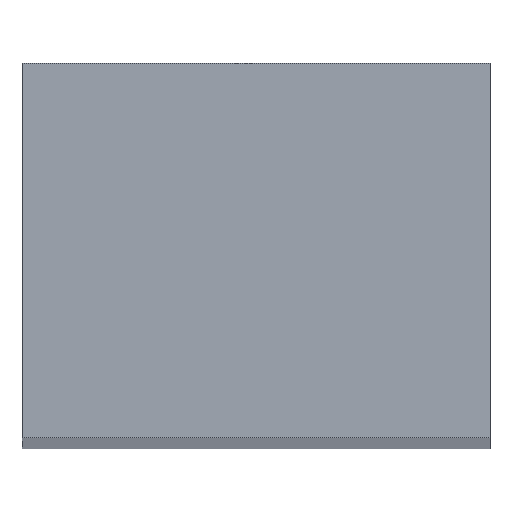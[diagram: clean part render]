
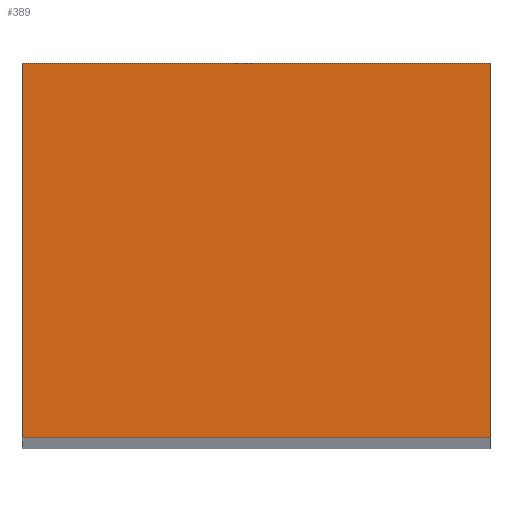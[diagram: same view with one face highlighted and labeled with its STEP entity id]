
A CAD part, top view. The second image highlights one B-rep face of the part: STEP entity #389.
In plain terms, the highlighted planar face has unit normal (0, 0, 1).
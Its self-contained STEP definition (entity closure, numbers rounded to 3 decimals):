
#14 = VECTOR ( 'NONE', #54, 1000. ) ;
#28 = DIRECTION ( 'NONE',  ( 1., 0., 0. ) ) ;
#54 = DIRECTION ( 'NONE',  ( 0., 1., 0. ) ) ;
#60 = CARTESIAN_POINT ( 'NONE',  ( -7.5, 6., 200. ) ) ;
#66 = DIRECTION ( 'NONE',  ( -1., 0., 0. ) ) ;
#76 = ORIENTED_EDGE ( 'NONE', *, *, #281, .T. ) ;
#80 = VERTEX_POINT ( 'NONE', #413 ) ;
#112 = VERTEX_POINT ( 'NONE', #60 ) ;
#143 = VERTEX_POINT ( 'NONE', #403 ) ;
#166 = EDGE_LOOP ( 'NONE', ( #430, #76, #379, #195 ) ) ;
#174 = DIRECTION ( 'NONE',  ( 0., -1., 0. ) ) ;
#195 = ORIENTED_EDGE ( 'NONE', *, *, #275, .T. ) ;
#206 = EDGE_CURVE ( 'NONE', #143, #260, #431, .T. ) ;
#209 = LINE ( 'NONE', #376, #440 ) ;
#242 = DIRECTION ( 'NONE',  ( 1., 0., 0. ) ) ;
#243 = CARTESIAN_POINT ( 'NONE',  ( -7.5, -6., 200. ) ) ;
#259 = CARTESIAN_POINT ( 'NONE',  ( 7.5, 6., 200. ) ) ;
#260 = VERTEX_POINT ( 'NONE', #327 ) ;
#275 = EDGE_CURVE ( 'NONE', #80, #143, #303, .T. ) ;
#281 = EDGE_CURVE ( 'NONE', #260, #112, #209, .T. ) ;
#303 = LINE ( 'NONE', #243, #355 ) ;
#304 = EDGE_CURVE ( 'NONE', #112, #80, #441, .T. ) ;
#305 = CARTESIAN_POINT ( 'NONE',  ( 0., 0., 200. ) ) ;
#307 = VECTOR ( 'NONE', #174, 1000. ) ;
#327 = CARTESIAN_POINT ( 'NONE',  ( 7.5, 6., 200. ) ) ;
#338 = PLANE ( 'NONE',  #371 ) ;
#343 = CARTESIAN_POINT ( 'NONE',  ( -7.5, 6., 200. ) ) ;
#355 = VECTOR ( 'NONE', #28, 1000. ) ;
#371 = AXIS2_PLACEMENT_3D ( 'NONE', #305, #438, #242 ) ;
#376 = CARTESIAN_POINT ( 'NONE',  ( -7.5, 6., 200. ) ) ;
#379 = ORIENTED_EDGE ( 'NONE', *, *, #304, .T. ) ;
#389 = ADVANCED_FACE ( 'NONE', ( #407 ), #338, .T. ) ;
#403 = CARTESIAN_POINT ( 'NONE',  ( 7.5, -6., 200. ) ) ;
#407 = FACE_OUTER_BOUND ( 'NONE', #166, .T. ) ;
#413 = CARTESIAN_POINT ( 'NONE',  ( -7.5, -6., 200. ) ) ;
#430 = ORIENTED_EDGE ( 'NONE', *, *, #206, .T. ) ;
#431 = LINE ( 'NONE', #259, #14 ) ;
#438 = DIRECTION ( 'NONE',  ( 0., 0., 1. ) ) ;
#440 = VECTOR ( 'NONE', #66, 1000. ) ;
#441 = LINE ( 'NONE', #343, #307 ) ;
